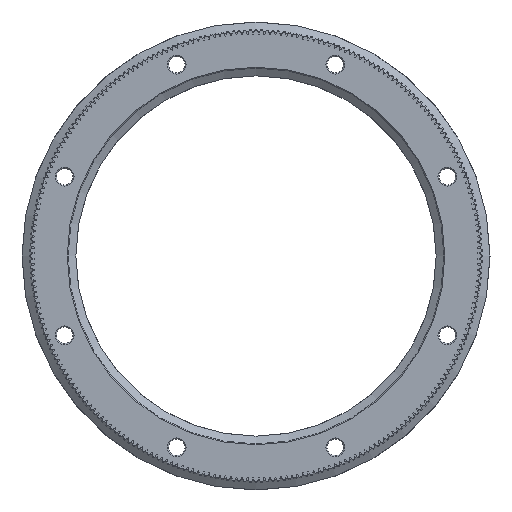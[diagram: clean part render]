
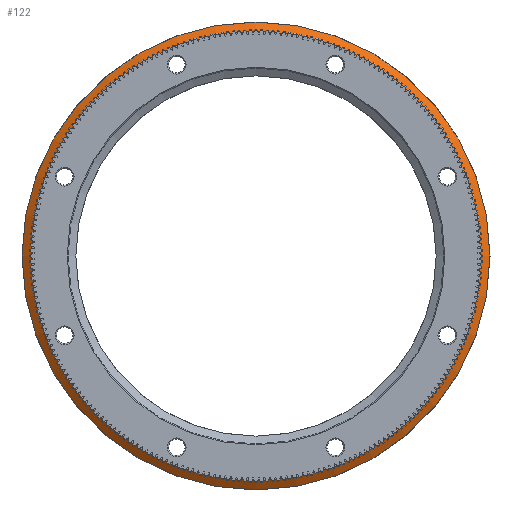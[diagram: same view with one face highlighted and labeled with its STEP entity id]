
A CAD part, front view. The second image highlights one B-rep face of the part: STEP entity #122.
In plain terms, the highlighted conical face has half-angle 55 degrees and reference radius 50.543 mm.
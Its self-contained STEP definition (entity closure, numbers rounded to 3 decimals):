
#122 = ADVANCED_FACE( '', ( #1534, #1535 ), #1536, .T. );
#1534 = FACE_OUTER_BOUND( '', #4215, .T. );
#1535 = FACE_BOUND( '', #4216, .T. );
#1536 = CONICAL_SURFACE( '', #4217, 50.543, 0.96 );
#4215 = EDGE_LOOP( '', ( #8022 ) );
#4216 = EDGE_LOOP( '', ( #8023 ) );
#4217 = AXIS2_PLACEMENT_3D( '', #8024, #8025, #8026 );
#8022 = ORIENTED_EDGE( '', *, *, #19421, .T. );
#8023 = ORIENTED_EDGE( '', *, *, #19422, .F. );
#8024 = CARTESIAN_POINT( '', ( 0., 4.7, 0. ) );
#8025 = DIRECTION( '', ( 0., 1., 0. ) );
#8026 = DIRECTION( '', ( 0., 0., 1. ) );
#19421 = EDGE_CURVE( '', #24327, #24327, #24328, .T. );
#19422 = EDGE_CURVE( '', #24329, #24329, #24330, .T. );
#24327 = VERTEX_POINT( '', #31278 );
#24328 = CIRCLE( '', #31279, 52.474 );
#24329 = VERTEX_POINT( '', #31280 );
#24330 = CIRCLE( '', #31281, 50.543 );
#31278 = CARTESIAN_POINT( '', ( 0., 6.053, -52.474 ) );
#31279 = AXIS2_PLACEMENT_3D( '', #40736, #40737, #40738 );
#31280 = CARTESIAN_POINT( '', ( 0., 4.7, -50.543 ) );
#31281 = AXIS2_PLACEMENT_3D( '', #40739, #40740, #40741 );
#40736 = CARTESIAN_POINT( '', ( 0., 6.053, 0. ) );
#40737 = DIRECTION( '', ( 0., -1., 0. ) );
#40738 = DIRECTION( '', ( 0., 0., -1. ) );
#40739 = CARTESIAN_POINT( '', ( 0., 4.7, 0. ) );
#40740 = DIRECTION( '', ( 0., -1., 0. ) );
#40741 = DIRECTION( '', ( 0., 0., -1. ) );
